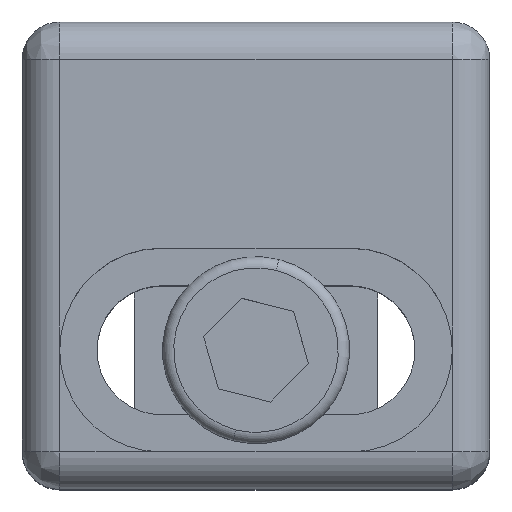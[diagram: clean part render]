
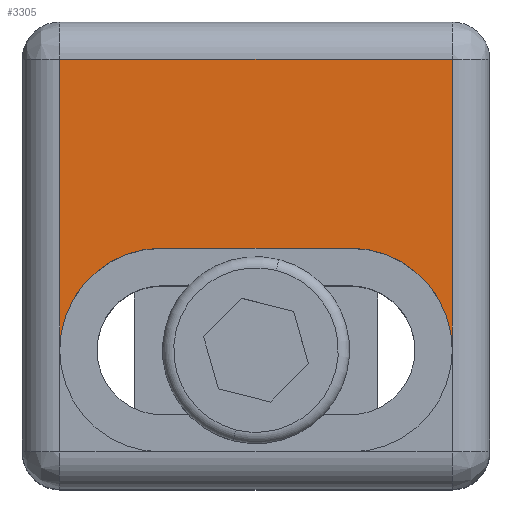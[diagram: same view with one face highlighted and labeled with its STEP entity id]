
A CAD part, top view. The second image highlights one B-rep face of the part: STEP entity #3305.
In plain terms, the highlighted planar face has unit normal (0, 0, 1).
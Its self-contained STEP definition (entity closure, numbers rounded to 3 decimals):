
#297 = VECTOR ( 'NONE', #3497, 1000. ) ;
#300 = EDGE_CURVE ( 'NONE', #3597, #3425, #511, .T. ) ;
#422 = FACE_OUTER_BOUND ( 'NONE', #3601, .T. ) ;
#498 = DIRECTION ( 'NONE',  ( 1., 0., 0. ) ) ;
#511 = LINE ( 'NONE', #2420, #3588 ) ;
#572 = VERTEX_POINT ( 'NONE', #2341 ) ;
#642 = EDGE_CURVE ( 'NONE', #1164, #3500, #1756, .T. ) ;
#776 = CIRCLE ( 'NONE', #2034, 5.45 ) ;
#823 = DIRECTION ( 'NONE',  ( 0., 0., 1. ) ) ;
#859 = VERTEX_POINT ( 'NONE', #3677 ) ;
#943 = CARTESIAN_POINT ( 'NONE',  ( 8.399, 12.982, 29.726 ) ) ;
#1164 = VERTEX_POINT ( 'NONE', #3193 ) ;
#1207 = VECTOR ( 'NONE', #3704, 1000. ) ;
#1208 = ORIENTED_EDGE ( 'NONE', *, *, #2276, .F. ) ;
#1211 = CARTESIAN_POINT ( 'NONE',  ( -2.101, 23.482, 29.726 ) ) ;
#1246 = PLANE ( 'NONE',  #2511 ) ;
#1335 = ORIENTED_EDGE ( 'NONE', *, *, #1834, .F. ) ;
#1362 = AXIS2_PLACEMENT_3D ( 'NONE', #2493, #3838, #2889 ) ;
#1459 = DIRECTION ( 'NONE',  ( 1., 0., 0. ) ) ;
#1756 = LINE ( 'NONE', #4051, #1207 ) ;
#1834 = EDGE_CURVE ( 'NONE', #3500, #3597, #3050, .T. ) ;
#1880 = CIRCLE ( 'NONE', #1362, 5.45 ) ;
#1959 = CARTESIAN_POINT ( 'NONE',  ( 18.899, 7.932, 29.726 ) ) ;
#2034 = AXIS2_PLACEMENT_3D ( 'NONE', #3725, #823, #498 ) ;
#2087 = CARTESIAN_POINT ( 'NONE',  ( 8.399, 23.482, 29.726 ) ) ;
#2276 = EDGE_CURVE ( 'NONE', #3425, #859, #1880, .T. ) ;
#2341 = CARTESIAN_POINT ( 'NONE',  ( 3.349, 13.382, 29.726 ) ) ;
#2420 = CARTESIAN_POINT ( 'NONE',  ( 18.899, 12.982, 29.726 ) ) ;
#2493 = CARTESIAN_POINT ( 'NONE',  ( 13.449, 7.932, 29.726 ) ) ;
#2511 = AXIS2_PLACEMENT_3D ( 'NONE', #943, #3188, #3515 ) ;
#2767 = ORIENTED_EDGE ( 'NONE', *, *, #3122, .F. ) ;
#2889 = DIRECTION ( 'NONE',  ( 1., 0., 0. ) ) ;
#2916 = EDGE_CURVE ( 'NONE', #859, #572, #3872, .T. ) ;
#2949 = VECTOR ( 'NONE', #1459, 1000. ) ;
#3050 = LINE ( 'NONE', #2087, #2949 ) ;
#3098 = DIRECTION ( 'NONE',  ( 0., -1., 0. ) ) ;
#3122 = EDGE_CURVE ( 'NONE', #572, #1164, #776, .T. ) ;
#3155 = ORIENTED_EDGE ( 'NONE', *, *, #2916, .F. ) ;
#3188 = DIRECTION ( 'NONE',  ( 0., 0., -1. ) ) ;
#3193 = CARTESIAN_POINT ( 'NONE',  ( -2.101, 7.932, 29.726 ) ) ;
#3305 = ADVANCED_FACE ( 'NONE', ( #422 ), #1246, .F. ) ;
#3425 = VERTEX_POINT ( 'NONE', #1959 ) ;
#3497 = DIRECTION ( 'NONE',  ( -1., 0., 0. ) ) ;
#3500 = VERTEX_POINT ( 'NONE', #1211 ) ;
#3515 = DIRECTION ( 'NONE',  ( -1., 0., 0. ) ) ;
#3526 = CARTESIAN_POINT ( 'NONE',  ( 18.899, 23.482, 29.726 ) ) ;
#3541 = CARTESIAN_POINT ( 'NONE',  ( 8.399, 13.382, 29.726 ) ) ;
#3588 = VECTOR ( 'NONE', #3098, 1000. ) ;
#3597 = VERTEX_POINT ( 'NONE', #3526 ) ;
#3601 = EDGE_LOOP ( 'NONE', ( #2767, #3155, #1208, #3863, #1335, #3800 ) ) ;
#3677 = CARTESIAN_POINT ( 'NONE',  ( 13.449, 13.382, 29.726 ) ) ;
#3704 = DIRECTION ( 'NONE',  ( 0., 1., 0. ) ) ;
#3725 = CARTESIAN_POINT ( 'NONE',  ( 3.349, 7.932, 29.726 ) ) ;
#3800 = ORIENTED_EDGE ( 'NONE', *, *, #642, .F. ) ;
#3838 = DIRECTION ( 'NONE',  ( 0., 0., 1. ) ) ;
#3863 = ORIENTED_EDGE ( 'NONE', *, *, #300, .F. ) ;
#3872 = LINE ( 'NONE', #3541, #297 ) ;
#4051 = CARTESIAN_POINT ( 'NONE',  ( -2.101, 12.982, 29.726 ) ) ;
